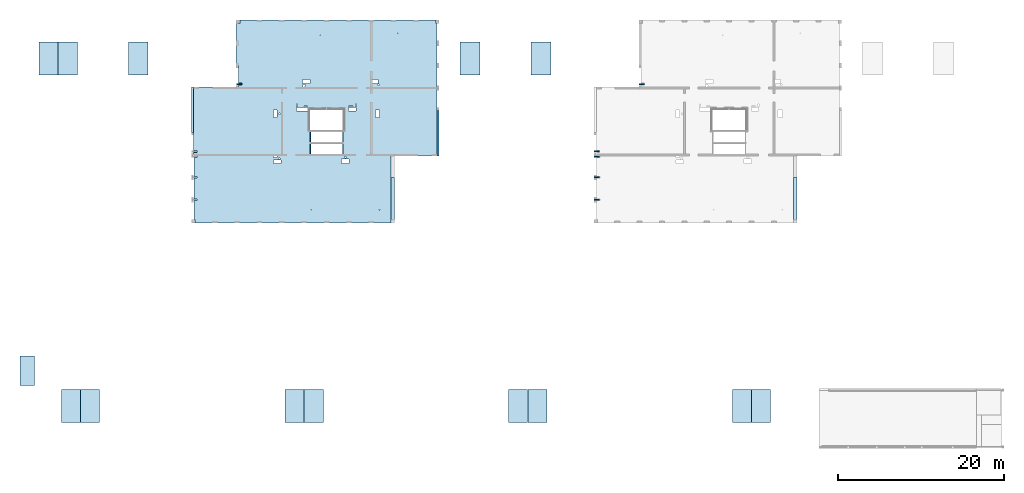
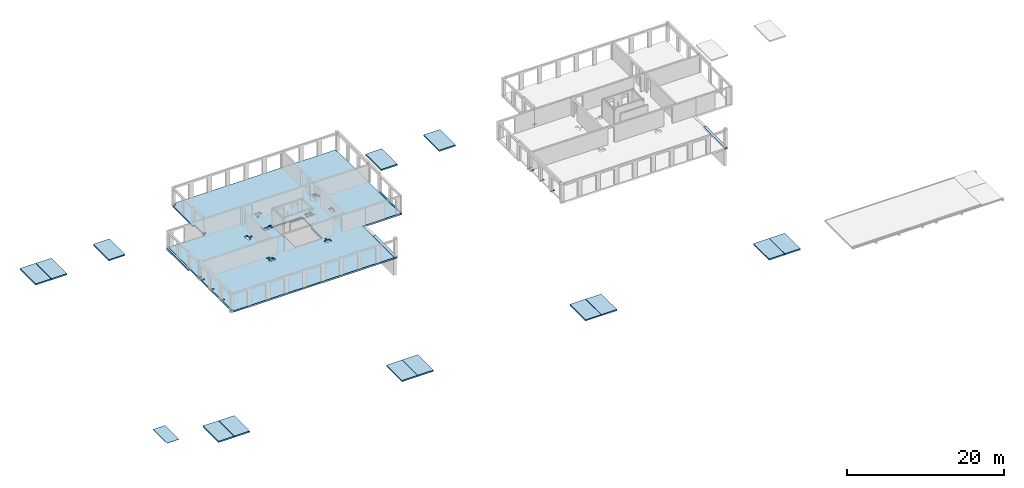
# One storey, part 4 of 14: 19 slabs, 6 beams, 34 openings.
"""IFC2X3 building model written with IfcOpenShell, lengths in millimetres."""

from ifc_helpers import new_model, entity, si_unit, converted_unit, derived_unit, direction, frame, frame_2d, origin, origin_2d_with_axis, place, context, subcontext, project, spatial, polyline, rectangle, circle, outline, extrude, source, transform, mapped, material, layer, layer_set, layer_usage, type_object, type_shapes, element, save


model = new_model("IFC2X3")

# Units and contexts
model_context = context("Model", 3, precision=0.01, world=origin(), true_north=direction((6.12303176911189e-17, 1.0)))
body_context = subcontext(model_context, "Body", "Model", "MODEL_VIEW")
ifc_project = project(units=[si_unit("LENGTHUNIT", "METRE", prefix="MILLI"), si_unit("AREAUNIT", "SQUARE_METRE"), si_unit("VOLUMEUNIT", "CUBIC_METRE"), converted_unit("PLANEANGLEUNIT", "DEGREE", entity("IfcRatioMeasure", 0.0174532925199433), si_unit("PLANEANGLEUNIT", "RADIAN"), dimensions=[0, 0, 0, 0, 0, 0, 0]), si_unit("MASSUNIT", "GRAM", prefix="KILO"), derived_unit("MASSDENSITYUNIT", [(si_unit("MASSUNIT", "GRAM", prefix="KILO"), 1), (si_unit("LENGTHUNIT", "METRE"), -3)]), si_unit("TIMEUNIT", "SECOND"), si_unit("FREQUENCYUNIT", "HERTZ"), si_unit("THERMODYNAMICTEMPERATUREUNIT", "DEGREE_CELSIUS"), derived_unit("THERMALTRANSMITTANCEUNIT", [(si_unit("MASSUNIT", "GRAM", prefix="KILO"), 1), (si_unit("THERMODYNAMICTEMPERATUREUNIT", "KELVIN"), -1), (si_unit("TIMEUNIT", "SECOND"), -3)]), derived_unit("VOLUMETRICFLOWRATEUNIT", [(si_unit("LENGTHUNIT", "METRE"), 3), (si_unit("TIMEUNIT", "SECOND"), -1)]), si_unit("ELECTRICCURRENTUNIT", "AMPERE"), si_unit("ELECTRICVOLTAGEUNIT", "VOLT"), si_unit("POWERUNIT", "WATT"), si_unit("FORCEUNIT", "NEWTON", prefix="KILO"), si_unit("ILLUMINANCEUNIT", "LUX"), si_unit("LUMINOUSFLUXUNIT", "LUMEN"), si_unit("LUMINOUSINTENSITYUNIT", "CANDELA"), derived_unit("USERDEFINED", [(si_unit("MASSUNIT", "GRAM", prefix="KILO"), -1), (si_unit("LENGTHUNIT", "METRE"), -2), (si_unit("TIMEUNIT", "SECOND"), 3), (si_unit("LUMINOUSFLUXUNIT", "LUMEN"), 1)]), derived_unit("LINEARVELOCITYUNIT", [(si_unit("LENGTHUNIT", "METRE"), 1), (si_unit("TIMEUNIT", "SECOND"), -1)]), si_unit("PRESSUREUNIT", "PASCAL"), derived_unit("USERDEFINED", [(si_unit("LENGTHUNIT", "METRE"), -2), (si_unit("MASSUNIT", "GRAM", prefix="KILO"), 1), (si_unit("TIMEUNIT", "SECOND"), -2)])], contexts=[model_context])

# Site, building, storey
site_placement = place(None, origin())
site = spatial("IfcSite", under=ifc_project, at=site_placement, Name="Default", CompositionType="ELEMENT")
building_placement = place(site_placement, origin())
building = spatial("IfcBuilding", under=site, at=building_placement, Name="niet gebruiken", CompositionType="ELEMENT")
storey_placement = place(building_placement, frame((0.0, 0.0, 15570.0)))
storey = spatial("IfcBuildingStorey", under=building, at=storey_placement, Name="05 vijfde verdieping", CompositionType="ELEMENT", Elevation=15570.0)

# Beams
ifc_material_1 = material(Name="NLRS_h2_staal")
beam_type_1 = type_object("IfcBeamType", Name="ligger stripstaal RECT_120x10", PredefinedType="BEAM", material=ifc_material_1)
shared_shape_1 = source(origin(), body_context, "Body", "SweptSolid", [
    extrude(rectangle(XDim=599.999999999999, YDim=120.0, at=origin_2d_with_axis()), frame((0.0, 0.0, -5.0), z_axis=(0.0, 0.0, 1.0), x_axis=(-1.0, 0.0, 0.0)), (0.0, 0.0, 1.0), 9.99999999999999),
    extrude(rectangle(XDim=599.999999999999, YDim=120.0, at=origin_2d_with_axis()), frame((0.0, 0.0, -5.0), z_axis=(0.0, 0.0, 1.0), x_axis=(-1.0, 0.0, 0.0)), (0.0, 0.0, 1.0), 9.99999999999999),
])
type_shapes(beam_type_1, [shared_shape_1])
for number, where, name in (
    (1, (75835.0, 31556.0, -115.0), "NLRS_28.11_SF_WPB_stalen ligger stripstaal_gen:ligger stripstaal RECT_120x10"),
    (2, (75835.0, 34256.0, -115.0), "NLRS_28.11_SF_WPB_stalen ligger stripstaal_gen:ligger stripstaal RECT_120x10"),
    (3, (75835.0, 36766.0, -115.0), "NLRS_28.11_SF_WPB_stalen ligger stripstaal_gen:ligger stripstaal RECT_120x10"),
):
    element("IfcBeam", number, at=place(storey_placement, frame(where)), inside=storey, type_object=beam_type_1, material=ifc_material_1, Name=name, ObjectType="ligger stripstaal RECT_120x10", context=body_context, shape_type="MappedRepresentation", body=[
        mapped(shared_shape_1, transform((0.0, 0.0, 0.0), scale=1.0)),
    ])
beam_type_2 = type_object("IfcBeamType", Name="ligger stripstaal RECT_120x10", PredefinedType="BEAM", material=ifc_material_1)
shared_shape_2 = source(origin(), body_context, "Body", "SweptSolid", [
    extrude(rectangle(XDim=120.0, YDim=600.000000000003, at=origin_2d_with_axis()), frame((0.0, 0.0, -5.0), z_axis=(0.0, 0.0, 1.0), x_axis=(0.0, 1.0, 0.0)), (0.0, 0.0, 1.0), 9.99999999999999),
    extrude(rectangle(XDim=120.0, YDim=600.000000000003, at=origin_2d_with_axis()), frame((0.0, 0.0, -5.0), z_axis=(0.0, 0.0, 1.0), x_axis=(0.0, 1.0, 0.0)), (0.0, 0.0, 1.0), 9.99999999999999),
])
type_shapes(beam_type_2, [shared_shape_2])
for number, where, name in (
    (4, (75835.0, 37386.0, -115.0), "NLRS_28.11_SF_WPB_stalen ligger stripstaal_gen:ligger stripstaal RECT_120x10"),
    (5, (32635.0, 45521.0, -115.0), "NLRS_28.11_SF_WPB_stalen ligger stripstaal_gen:ligger stripstaal RECT_120x10"),
    (6, (81235.0, 45521.0, -115.0), "NLRS_28.11_SF_WPB_stalen ligger stripstaal_gen:ligger stripstaal RECT_120x10"),
):
    element("IfcBeam", number, at=place(storey_placement, frame(where)), inside=storey, type_object=beam_type_2, material=ifc_material_1, Name=name, ObjectType="ligger stripstaal RECT_120x10", context=body_context, shape_type="MappedRepresentation", body=[
        mapped(shared_shape_2, transform((0.0, 0.0, 0.0), scale=1.0)),
    ])

# Slabs
ifc_material_2 = material(Name="NLRS_f2_beton prefab")
ifc_layer_1 = layer(ifc_material_2, 200.0)
ifc_layer_set_1 = layer_set([ifc_layer_1], Name="Floor:NLRS_27.21_FL_beton prefab d=200_gen")
ifc_layer_usage_1 = layer_usage(ifc_layer_set_1, "AXIS3", "POSITIVE", 0.0)
slab_1_placement = place(storey_placement, frame((11190.0, 4666.0, -340.0)))
element("IfcSlab", 7, at=slab_1_placement, inside=storey, material=ifc_layer_usage_1, Name="Floor:NLRS_27.21_FL_beton prefab d=200_gen", ObjectType="Floor:NLRS_27.21_FL_beton prefab d=200_gen", PredefinedType="ROOF", context=body_context, shape_type="SweptSolid", body=[
    extrude(rectangle(XDim=3979.99999999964, YDim=2300.00000000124, at=frame_2d((1160.0, 0.0), x_axis=(0.0, -1.0))), frame((2310.0, 1990.0, 200.0), z_axis=(0.0, 0.0, -1.0), x_axis=(-1.0, 0.0, 0.0)), (0.0, 0.0, 1.0), 200.0),
])
slab_2_placement = place(storey_placement, frame((11190.0, 4666.0, -340.0)))
element("IfcSlab", 8, at=slab_2_placement, inside=storey, material=ifc_layer_usage_1, Name="Floor:NLRS_27.21_FL_beton prefab d=200_gen:2", ObjectType="Floor:NLRS_27.21_FL_beton prefab d=200_gen", PredefinedType="ROOF", context=body_context, shape_type="SweptSolid", body=[
    extrude(rectangle(XDim=3979.99999999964, YDim=2299.99999999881, at=frame_2d((-1160.0, 0.0), x_axis=(0.0, 1.0))), frame((2310.0, 1990.0, 200.0), z_axis=(0.0, 0.0, -1.0), x_axis=(-1.0, 0.0, 0.0)), (0.0, 0.0, 1.0), 200.0),
])
ifc_layer_usage_2 = layer_usage(ifc_layer_set_1, "AXIS3", "POSITIVE", 0.0)
slab_3_placement = place(storey_placement, origin())
element("IfcSlab", 9, at=slab_3_placement, inside=storey, material=ifc_layer_usage_2, Name="Floor:NLRS_27.21_FL_beton prefab d=200_gen", ObjectType="Floor:NLRS_27.21_FL_beton prefab d=200_gen", PredefinedType="ROOF", context=body_context, shape_type="SweptSolid", body=[
    extrude(rectangle(XDim=3979.99999999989, YDim=2404.99999999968, at=origin_2d_with_axis()), frame((20472.4999999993, 48586.0, -140.0), z_axis=(0.0, 0.0, -1.0), x_axis=(0.0, 1.0, 0.0)), (0.0, 0.0, 1.0), 200.0),
])

# Slab, openings
ifc_material_3 = material(Name="NLRS_f2_beton ihwg")
ifc_layer_2 = layer(ifc_material_3, 250.0)
ifc_layer_set_2 = layer_set([ifc_layer_2], Name="Floor:NLRS_23.21_FL_beton ihwg d=250_gen")
ifc_layer_usage_3 = layer_usage(ifc_layer_set_2, "AXIS3", "POSITIVE", 0.0)
slab_4_placement = place(storey_placement, frame((27170.0, 28756.0, -340.0)))
slab_4 = element("IfcSlab", 10, at=slab_4_placement, inside=storey, material=ifc_layer_usage_3, Name="Floor:NLRS_23.21_FL_beton ihwg d=250_gen", ObjectType="Floor:NLRS_23.21_FL_beton ihwg d=250_gen", PredefinedType="FLOOR", context=body_context, shape_type="SweptSolid", body=[
    extrude(outline(polyline([(9129.9999670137, 12250.0), (-14530.0, 12250.0), (-14530.0, 11840.0), (-14670.0, 11840.0), (-14670.0, 4060.0), (-14690.0, 4060.0), (-14690.0, -4150.0), (-9130.0, -4150.0), (-9130.0, -12250.0), (14530.0, -12250.0), (14530.0, -11820.0), (14670.0, -11820.0), (14670.0, -4040.0), (14690.0, -4040.0), (14690.0, 4150.0), (9290.0, 4150.0), (9290.0, 6750.0), (9560.0, 6750.0), (9560.0, 11820.0), (9129.9999670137, 11820.0), (9129.9999670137, 12250.0)])), frame((14690.0, 12250.0, 250.0), z_axis=(0.0, 0.0, -1.0), x_axis=(-1.0, 0.0, 0.0)), (0.0, 0.0, 1.0), 249.999999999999),
])
opening_1_placement = place(storey_placement, frame((27170.0, 28756.0, -340.0)))
element("IfcOpeningElement", 11, at=opening_1_placement, cuts=slab_4, ObjectType="Opening", context=body_context, shape_type="SweptSolid", body=[
    extrude(circle(Radius=37.5, at=frame_2d((-7740.0, -10650.0), x_axis=(1.0, 0.0))), frame((14690.0, 12250.0, 250.0), z_axis=(0.0, 0.0, -1.0), x_axis=(-1.0, 0.0, 0.0)), (0.0, 0.0, 1.0), 249.999999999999),
])
opening_2_placement = place(storey_placement, frame((27170.0, 28756.0, -340.0)))
element("IfcOpeningElement", 12, at=opening_2_placement, cuts=slab_4, ObjectType="Opening", context=body_context, shape_type="SweptSolid", body=[
    extrude(circle(Radius=37.5, at=frame_2d((-9940.0, 10650.0), x_axis=(1.0, 0.0))), frame((14690.0, 12250.0, 250.0), z_axis=(0.0, 0.0, -1.0), x_axis=(-1.0, 0.0, 0.0)), (0.0, 0.0, 1.0), 249.999999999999),
])
opening_3_placement = place(storey_placement, frame((27170.0, 28756.0, -340.0)))
element("IfcOpeningElement", 13, at=opening_3_placement, cuts=slab_4, ObjectType="Opening", context=body_context, shape_type="SweptSolid", body=[
    extrude(circle(Radius=37.5, at=frame_2d((-590.0, 10400.0), x_axis=(1.0, 0.0))), frame((14690.0, 12250.0, 250.0), z_axis=(0.0, 0.0, -1.0), x_axis=(-1.0, 0.0, 0.0)), (0.0, 0.0, 1.0), 249.999999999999),
])
opening_4_placement = place(storey_placement, frame((27170.0, 28756.0, -340.0)))
element("IfcOpeningElement", 14, at=opening_4_placement, cuts=slab_4, ObjectType="Opening", context=body_context, shape_type="SweptSolid", body=[
    extrude(circle(Radius=37.5, at=frame_2d((510.0, -10650.0), x_axis=(1.0, 0.0))), frame((14690.0, 12250.0, 250.0), z_axis=(0.0, 0.0, -1.0), x_axis=(-1.0, 0.0, 0.0)), (0.0, 0.0, 1.0), 249.999999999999),
])
opening_5_placement = place(slab_4_placement, origin())
element("IfcOpeningElement", 15, at=opening_5_placement, cuts=slab_4, ObjectType="Opening", context=body_context, shape_type="SweptSolid", body=[
    extrude(rectangle(XDim=110.000000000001, YDim=1220.0, at=origin_2d_with_axis()), frame((17985.0, 8960.0, 210.0)), (0.0, 0.0, 1.0), 39.9999999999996),
])
opening_6_placement = place(slab_4_placement, origin())
element("IfcOpeningElement", 16, at=opening_6_placement, cuts=slab_4, ObjectType="Opening", context=body_context, shape_type="SweptSolid", body=[
    extrude(rectangle(XDim=110.000000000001, YDim=1220.0, at=origin_2d_with_axis()), frame((14074.9995993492, 8960.0, 210.0)), (0.0, 0.0, 1.0), 39.9999999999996),
])
opening_7_placement = place(slab_4_placement, origin())
element("IfcOpeningElement", 17, at=opening_7_placement, cuts=slab_4, ObjectType="Opening", context=body_context, shape_type="SweptSolid", body=[
    extrude(rectangle(XDim=200.000000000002, YDim=400.000000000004, at=origin_2d_with_axis()), frame((220.0, 5500.0, 220.0), z_axis=(0.0, 0.0, 1.0), x_axis=(0.0, -1.0, 0.0)), (0.0, 0.0, 1.0), 29.9999999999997),
])
opening_8_placement = place(slab_4_placement, origin())
element("IfcOpeningElement", 18, at=opening_8_placement, cuts=slab_4, ObjectType="Opening", context=body_context, shape_type="SweptSolid", body=[
    extrude(rectangle(XDim=200.000000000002, YDim=400.000000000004, at=origin_2d_with_axis()), frame((220.0, 8000.0, 220.0), z_axis=(0.0, 0.0, 1.0), x_axis=(0.0, -1.0, 0.0)), (0.0, 0.0, 1.0), 29.9999999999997),
])
opening_9_placement = place(slab_4_placement, origin())
element("IfcOpeningElement", 19, at=opening_9_placement, cuts=slab_4, ObjectType="Opening", context=body_context, shape_type="SweptSolid", body=[
    extrude(rectangle(XDim=200.000000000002, YDim=400.000000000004, at=origin_2d_with_axis()), frame((220.0, 2800.0, 220.0), z_axis=(0.0, 0.0, 1.0), x_axis=(0.0, -1.0, 0.0)), (0.0, 0.0, 1.0), 29.9999999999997),
])
opening_10_placement = place(slab_4_placement, origin())
element("IfcOpeningElement", 20, at=opening_10_placement, cuts=slab_4, ObjectType="Opening", context=body_context, shape_type="SweptSolid", body=[
    extrude(rectangle(XDim=400.000000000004, YDim=200.000000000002, at=origin_2d_with_axis()), frame((200.0, 8630.0, 220.0)), (0.0, 0.0, 1.0), 29.9999999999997),
])
opening_11_placement = place(slab_4_placement, origin())
element("IfcOpeningElement", 21, at=opening_11_placement, cuts=slab_4, ObjectType="Opening", context=body_context, shape_type="SweptSolid", body=[
    extrude(rectangle(XDim=400.000000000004, YDim=199.999999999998, at=origin_2d_with_axis()), frame((5600.0, 16765.0, 220.0)), (0.0, 0.0, 1.0), 29.9999999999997),
])
opening_12_placement = place(slab_4_placement, origin())
element("IfcOpeningElement", 22, at=opening_12_placement, cuts=slab_4, ObjectType="Opening", context=body_context, shape_type="SweptSolid", body=[
    extrude(rectangle(XDim=110.000000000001, YDim=1220.0, at=origin_2d_with_axis()), frame((14074.9999671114, 10380.0, 210.0)), (0.0, 0.0, 1.0), 39.9999999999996),
])
opening_13_placement = place(slab_4_placement, origin())
element("IfcOpeningElement", 23, at=opening_13_placement, cuts=slab_4, ObjectType="Opening", context=body_context, shape_type="SweptSolid", body=[
    extrude(rectangle(XDim=110.000000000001, YDim=1220.0, at=origin_2d_with_axis()), frame((17985.0, 10380.0, 210.0)), (0.0, 0.0, 1.0), 39.9999999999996),
])
opening_14_placement = place(slab_4_placement, origin())
element("IfcOpeningElement", 24, at=opening_14_placement, cuts=slab_4, ObjectType="Opening", context=body_context, shape_type="SweptSolid", body=[
    extrude(rectangle(XDim=450.000000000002, YDim=900.000000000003, at=origin_2d_with_axis()), frame((19160.0, 13720.0, 0.0), z_axis=(0.0, 0.0, 1.0), x_axis=(0.0, -1.0, 0.0)), (0.0, 0.0, 1.0), 249.999999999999),
])
opening_15_placement = place(slab_4_placement, origin())
element("IfcOpeningElement", 25, at=opening_15_placement, cuts=slab_4, ObjectType="Opening", context=body_context, shape_type="SweptSolid", body=[
    extrude(circle(Radius=157.5, at=origin_2d_with_axis()), frame((13310.0, 16570.0, 0.0)), (0.0, 0.0, 1.0), 249.999999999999),
])
opening_16_placement = place(slab_4_placement, origin())
element("IfcOpeningElement", 26, at=opening_16_placement, cuts=slab_4, ObjectType="Opening", context=body_context, shape_type="SweptSolid", body=[
    extrude(rectangle(XDim=475.000000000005, YDim=910.000000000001, at=origin_2d_with_axis()), frame((13610.0, 17072.5000000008, 0.0), z_axis=(0.0, 0.0, 1.0), x_axis=(0.0, 1.0, 0.0)), (0.0, 0.0, 1.0), 249.999999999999),
])
opening_17_placement = place(slab_4_placement, origin())
element("IfcOpeningElement", 27, at=opening_17_placement, cuts=slab_4, ObjectType="Opening", context=body_context, shape_type="SweptSolid", body=[
    extrude(rectangle(XDim=499.999999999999, YDim=675.000000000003, at=origin_2d_with_axis()), frame((21892.5, 17075.0, 0.0), z_axis=(0.0, 0.0, 1.0), x_axis=(0.0, -1.0, 0.0)), (0.0, 0.0, 1.0), 249.999999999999),
])
opening_18_placement = place(slab_4_placement, origin())
element("IfcOpeningElement", 28, at=opening_18_placement, cuts=slab_4, ObjectType="Opening", context=body_context, shape_type="SweptSolid", body=[
    extrude(rectangle(XDim=499.999999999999, YDim=900.000000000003, at=origin_2d_with_axis()), frame((22205.0, 13180.0, 0.0), z_axis=(0.0, 0.0, 1.0), x_axis=(-1.0, 0.0, 0.0)), (0.0, 0.0, 1.0), 249.999999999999),
])
opening_19_placement = place(slab_4_placement, origin())
element("IfcOpeningElement", 29, at=opening_19_placement, cuts=slab_4, ObjectType="Opening", context=body_context, shape_type="SweptSolid", body=[
    extrude(rectangle(XDim=500.000000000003, YDim=900.000000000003, at=origin_2d_with_axis()), frame((18310.0, 7450.0, 0.0), z_axis=(0.0, 0.0, 1.0), x_axis=(0.0, 1.0, 0.0)), (0.0, 0.0, 1.0), 249.999999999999),
])
opening_20_placement = place(slab_4_placement, origin())
element("IfcOpeningElement", 30, at=opening_20_placement, cuts=slab_4, ObjectType="Opening", context=body_context, shape_type="SweptSolid", body=[
    extrude(rectangle(XDim=220.000000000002, YDim=450.000000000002, at=origin_2d_with_axis()), frame((9830.0, 7990.0, 0.0), z_axis=(0.0, 0.0, 1.0), x_axis=(0.0, 1.0, 0.0)), (0.0, 0.0, 1.0), 249.999999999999),
])
opening_21_placement = place(slab_4_placement, origin())
element("IfcOpeningElement", 31, at=opening_21_placement, cuts=slab_4, ObjectType="Opening", context=body_context, shape_type="SweptSolid", body=[
    extrude(rectangle(XDim=400.0, YDim=900.000000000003, at=origin_2d_with_axis()), frame((10055.0, 7400.0, 0.0), z_axis=(0.0, 0.0, 1.0), x_axis=(0.0, 1.0, 0.0)), (0.0, 0.0, 1.0), 249.999999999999),
])
opening_22_placement = place(slab_4_placement, origin())
element("IfcOpeningElement", 32, at=opening_22_placement, cuts=slab_4, ObjectType="Opening", context=body_context, shape_type="SweptSolid", body=[
    extrude(rectangle(XDim=340.000000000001, YDim=100.000000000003, at=origin_2d_with_axis()), frame((12485.0, 14210.0, 0.0), z_axis=(0.0, 0.0, 1.0), x_axis=(0.0, -1.0, 0.0)), (0.0, 0.0, 1.0), 249.999999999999),
])
opening_23_placement = place(slab_4_placement, origin())
element("IfcOpeningElement", 33, at=opening_23_placement, cuts=slab_4, ObjectType="Opening", context=body_context, shape_type="SweptSolid", body=[
    extrude(rectangle(XDim=1760.00000000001, YDim=23.0000000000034, at=origin_2d_with_axis()), frame((14974.9998491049, 13751.5, 180.0)), (0.0, 0.0, 1.0), 39.9999999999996),
])
opening_24_placement = place(slab_4_placement, origin())
element("IfcOpeningElement", 34, at=opening_24_placement, cuts=slab_4, ObjectType="Opening", context=body_context, shape_type="SweptSolid", body=[
    extrude(rectangle(XDim=1760.00000000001, YDim=23.0000000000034, at=origin_2d_with_axis()), frame((17084.999849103, 13751.5, 180.0)), (0.0, 0.0, 1.0), 39.9999999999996),
])
opening_25_placement = place(slab_4_placement, origin())
element("IfcOpeningElement", 35, at=opening_25_placement, cuts=slab_4, ObjectType="Opening", context=body_context, shape_type="SweptSolid", body=[
    extrude(rectangle(XDim=340.000000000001, YDim=100.000000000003, at=origin_2d_with_axis()), frame((19595.0, 14210.0, 0.0), z_axis=(0.0, 0.0, 1.0), x_axis=(0.0, -1.0, 0.0)), (0.0, 0.0, 1.0), 249.999999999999),
])
opening_26_placement = place(slab_4_placement, origin())
element("IfcOpeningElement", 36, at=opening_26_placement, cuts=slab_4, ObjectType="Opening", context=body_context, shape_type="SweptSolid", body=[
    extrude(rectangle(XDim=490.000000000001, YDim=100.000000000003, at=origin_2d_with_axis()), frame((18955.0, 14090.0, 0.0), z_axis=(0.0, 0.0, 1.0), x_axis=(-1.0, 0.0, 0.0)), (0.0, 0.0, 1.0), 249.999999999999),
])
opening_27_placement = place(slab_4_placement, origin())
element("IfcOpeningElement", 37, at=opening_27_placement, cuts=slab_4, ObjectType="Opening", context=body_context, shape_type="SweptSolid", body=[
    extrude(rectangle(XDim=440.000000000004, YDim=100.000000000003, at=origin_2d_with_axis()), frame((13535.0, 14090.0, 0.0), z_axis=(0.0, 0.0, 1.0), x_axis=(-1.0, 0.0, 0.0)), (0.0, 0.0, 1.0), 249.999999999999),
])
opening_28_placement = place(slab_4_placement, origin())
element("IfcOpeningElement", 38, at=opening_28_placement, cuts=slab_4, ObjectType="Opening", context=body_context, shape_type="SweptSolid", body=[
    extrude(circle(Radius=100.0, at=origin_2d_with_axis()), frame((10305.0, 7760.0, 0.0)), (0.0, 0.0, 1.0), 249.999999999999),
])
opening_29_placement = place(slab_4_placement, origin())
element("IfcOpeningElement", 39, at=opening_29_placement, cuts=slab_4, ObjectType="Opening", context=body_context, shape_type="SweptSolid", body=[
    extrude(circle(Radius=100.0, at=origin_2d_with_axis()), frame((18310.0, 7950.0, 0.0)), (0.0, 0.0, 1.0), 249.999999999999),
])
opening_30_placement = place(slab_4_placement, origin())
element("IfcOpeningElement", 40, at=opening_30_placement, cuts=slab_4, ObjectType="Opening", context=body_context, shape_type="SweptSolid", body=[
    extrude(circle(Radius=100.0, at=origin_2d_with_axis()), frame((22305.0, 16700.0, 0.0)), (0.0, 0.0, 1.0), 249.999999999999),
])
opening_31_placement = place(slab_4_placement, origin())
element("IfcOpeningElement", 41, at=opening_31_placement, cuts=slab_4, ObjectType="Opening", context=body_context, shape_type="SweptSolid", body=[
    extrude(circle(Radius=100.0, at=origin_2d_with_axis()), frame((10355.0, 13180.0, 0.0)), (0.0, 0.0, 1.0), 249.999999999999),
])
opening_32_placement = place(slab_4_placement, origin())
element("IfcOpeningElement", 42, at=opening_32_placement, cuts=slab_4, ObjectType="Opening", context=body_context, shape_type="SweptSolid", body=[
    extrude(rectangle(XDim=450.000000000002, YDim=900.000000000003, at=origin_2d_with_axis()), frame((9829.99998015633, 13180.0, 0.0), z_axis=(0.0, 0.0, 1.0), x_axis=(-1.0, 0.0, 0.0)), (0.0, 0.0, 1.0), 249.999999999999),
])
opening_33_placement = place(slab_4_placement, origin())
element("IfcOpeningElement", 43, at=opening_33_placement, cuts=slab_4, ObjectType="Opening", context=body_context, shape_type="SweptSolid", body=[
    extrude(rectangle(XDim=440.000000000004, YDim=1320.0, at=origin_2d_with_axis()), frame((13095.0, 13720.0, 0.0), z_axis=(0.0, 0.0, 1.0), x_axis=(0.0, -1.0, 0.0)), (0.0, 0.0, 1.0), 249.999999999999),
])
opening_34_placement = place(slab_4_placement, frame((16030.0028664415, 10378.75, 250.0)))
element("IfcOpeningElement", 44, at=opening_34_placement, cuts=slab_4, Name="Floor:NLRS_23.21_FL_beton ihwg d=250_gen:2", ObjectType="Opening", context=body_context, shape_type="SweptSolid", body=[
    extrude(outline(polyline([(-3361.25000000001, -2134.99713355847), (-751.250000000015, -2134.99713355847), (-751.250000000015, -1899.9971006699), (608.750000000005, -1899.9971006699), (608.750000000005, -1999.99713355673), (808.750000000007, -1999.99713355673), (808.750000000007, -1899.9971006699), (2028.75, -1899.9971006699), (2028.75, 1900.00289933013), (808.749999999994, 1900.00289933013), (808.749999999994, 2000.00286644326), (608.749999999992, 2000.00286644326), (608.749999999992, 1900.00289933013), (-751.250000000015, 1900.00289933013), (-751.250000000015, 2134.97980335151), (-3361.25000000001, 2134.97980335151), (-3361.25000000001, -2134.99713355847)])), frame((0.0, 0.0, 0.0), z_axis=(0.0, 0.0, -1.0), x_axis=(0.0, -1.0, 0.0)), (0.0, 0.0, 1.0), 249.999999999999),
])

# Slabs
ifc_layer_usage_4 = layer_usage(ifc_layer_set_1, "AXIS3", "POSITIVE", 0.0)
slab_5_placement = place(storey_placement, frame((38190.0, 4666.0, -340.0)))
element("IfcSlab", 45, at=slab_5_placement, inside=storey, material=ifc_layer_usage_4, Name="Floor:NLRS_27.21_FL_beton prefab d=200_gen", ObjectType="Floor:NLRS_27.21_FL_beton prefab d=200_gen", PredefinedType="ROOF", context=body_context, shape_type="SweptSolid", body=[
    extrude(rectangle(XDim=3979.99999999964, YDim=2300.00000000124, at=frame_2d((1160.0, 0.0), x_axis=(0.0, -1.0))), frame((2310.0, 1990.0, 200.0), z_axis=(0.0, 0.0, -1.0), x_axis=(-1.0, 0.0, 0.0)), (0.0, 0.0, 1.0), 200.0),
])
slab_6_placement = place(storey_placement, frame((38190.0, 4666.0, -340.0)))
element("IfcSlab", 46, at=slab_6_placement, inside=storey, material=ifc_layer_usage_4, Name="Floor:NLRS_27.21_FL_beton prefab d=200_gen:2", ObjectType="Floor:NLRS_27.21_FL_beton prefab d=200_gen", PredefinedType="ROOF", context=body_context, shape_type="SweptSolid", body=[
    extrude(rectangle(XDim=3979.99999999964, YDim=2299.99999999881, at=frame_2d((-1160.0, 0.0), x_axis=(0.0, 1.0))), frame((2310.0, 1990.0, 200.0), z_axis=(0.0, 0.0, -1.0), x_axis=(-1.0, 0.0, 0.0)), (0.0, 0.0, 1.0), 200.0),
])
ifc_layer_usage_5 = layer_usage(ifc_layer_set_1, "AXIS3", "POSITIVE", 0.0)
slab_7_placement = place(storey_placement, frame((65190.0, 4666.0, -340.0)))
element("IfcSlab", 47, at=slab_7_placement, inside=storey, material=ifc_layer_usage_5, Name="Floor:NLRS_27.21_FL_beton prefab d=200_gen", ObjectType="Floor:NLRS_27.21_FL_beton prefab d=200_gen", PredefinedType="ROOF", context=body_context, shape_type="SweptSolid", body=[
    extrude(rectangle(XDim=3979.99999999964, YDim=2300.00000000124, at=frame_2d((1160.0, 0.0), x_axis=(0.0, -1.0))), frame((2310.0, 1990.0, 200.0), z_axis=(0.0, 0.0, -1.0), x_axis=(-1.0, 0.0, 0.0)), (0.0, 0.0, 1.0), 200.0),
])
slab_8_placement = place(storey_placement, frame((65190.0, 4666.0, -340.0)))
element("IfcSlab", 48, at=slab_8_placement, inside=storey, material=ifc_layer_usage_5, Name="Floor:NLRS_27.21_FL_beton prefab d=200_gen:2", ObjectType="Floor:NLRS_27.21_FL_beton prefab d=200_gen", PredefinedType="ROOF", context=body_context, shape_type="SweptSolid", body=[
    extrude(rectangle(XDim=3979.99999999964, YDim=2299.99999999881, at=frame_2d((-1160.0, 0.0), x_axis=(0.0, 1.0))), frame((2310.0, 1990.0, 200.0), z_axis=(0.0, 0.0, -1.0), x_axis=(-1.0, 0.0, 0.0)), (0.0, 0.0, 1.0), 200.0),
])
ifc_layer_usage_6 = layer_usage(ifc_layer_set_1, "AXIS3", "POSITIVE", 0.0)
slab_9_placement = place(storey_placement, frame((92190.0, 4666.0, -340.0)))
element("IfcSlab", 49, at=slab_9_placement, inside=storey, material=ifc_layer_usage_6, Name="Floor:NLRS_27.21_FL_beton prefab d=200_gen", ObjectType="Floor:NLRS_27.21_FL_beton prefab d=200_gen", PredefinedType="ROOF", context=body_context, shape_type="SweptSolid", body=[
    extrude(rectangle(XDim=3979.99999999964, YDim=2300.00000000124, at=frame_2d((1160.0, 0.0), x_axis=(0.0, -1.0))), frame((2310.0, 1990.0, 200.0), z_axis=(0.0, 0.0, -1.0), x_axis=(-1.0, 0.0, 0.0)), (0.0, 0.0, 1.0), 200.0),
])
slab_10_placement = place(storey_placement, frame((92190.0, 4666.0, -340.0)))
element("IfcSlab", 50, at=slab_10_placement, inside=storey, material=ifc_layer_usage_6, Name="Floor:NLRS_27.21_FL_beton prefab d=200_gen:2", ObjectType="Floor:NLRS_27.21_FL_beton prefab d=200_gen", PredefinedType="ROOF", context=body_context, shape_type="SweptSolid", body=[
    extrude(rectangle(XDim=3979.99999999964, YDim=2299.9999999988, at=frame_2d((-1160.0, 0.0), x_axis=(0.0, 1.0))), frame((2310.0, 1990.0, 200.0), z_axis=(0.0, 0.0, -1.0), x_axis=(-1.0, 0.0, 0.0)), (0.0, 0.0, 1.0), 200.0),
])
ifc_layer_usage_7 = layer_usage(ifc_layer_set_1, "AXIS3", "POSITIVE", 0.0)
slab_11_placement = place(storey_placement, frame((8490.0, 46596.0, -340.0)))
element("IfcSlab", 51, at=slab_11_placement, inside=storey, material=ifc_layer_usage_7, Name="Floor:NLRS_27.21_FL_beton prefab d=200_gen", ObjectType="Floor:NLRS_27.21_FL_beton prefab d=200_gen", PredefinedType="ROOF", context=body_context, shape_type="SweptSolid", body=[
    extrude(outline(polyline([(10.4633878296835, 1990.0), (10.4267756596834, -1990.0), (2310.0, -1990.0), (2310.0, 1990.0), (10.4633878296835, 1990.0)])), frame((2310.0, 1990.0, 200.0), z_axis=(0.0, 0.0, -1.0), x_axis=(-1.0, 0.0, 0.0)), (0.0, 0.0, 1.0), 200.0),
])
slab_12_placement = place(storey_placement, frame((8490.0, 46596.0, -340.0)))
element("IfcSlab", 52, at=slab_12_placement, inside=storey, material=ifc_layer_usage_7, Name="Floor:NLRS_27.21_FL_beton prefab d=200_gen:2", ObjectType="Floor:NLRS_27.21_FL_beton prefab d=200_gen", PredefinedType="ROOF", context=body_context, shape_type="SweptSolid", body=[
    extrude(outline(polyline([(-9.60983651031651, -1990.0), (-9.57322434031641, 1990.0), (-2310.0, 1990.0), (-2310.0, -1990.0), (-9.60983651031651, -1990.0)])), frame((2310.0, 1990.0, 200.0), z_axis=(0.0, 0.0, -1.0), x_axis=(-1.0, 0.0, 0.0)), (0.0, 0.0, 1.0), 200.0),
])
ifc_layer_usage_8 = layer_usage(ifc_layer_set_1, "AXIS3", "POSITIVE", 0.0)
slab_13_placement = place(storey_placement, origin())
element("IfcSlab", 53, at=slab_13_placement, inside=storey, material=ifc_layer_usage_8, Name="Floor:NLRS_27.21_FL_beton prefab d=200_gen", ObjectType="Floor:NLRS_27.21_FL_beton prefab d=200_gen", PredefinedType="ROOF", context=body_context, shape_type="SweptSolid", body=[
    extrude(rectangle(XDim=3979.99999999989, YDim=2404.99999999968, at=origin_2d_with_axis()), frame((69072.4999999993, 48586.0, -140.0), z_axis=(0.0, 0.0, -1.0), x_axis=(0.0, 1.0, 0.0)), (0.0, 0.0, 1.0), 200.0),
])
ifc_layer_usage_9 = layer_usage(ifc_layer_set_1, "AXIS3", "POSITIVE", 0.0)
slab_14_placement = place(storey_placement, origin())
element("IfcSlab", 54, at=slab_14_placement, inside=storey, material=ifc_layer_usage_9, Name="Floor:NLRS_27.21_FL_beton prefab d=200_gen", ObjectType="Floor:NLRS_27.21_FL_beton prefab d=200_gen", PredefinedType="ROOF", context=body_context, shape_type="SweptSolid", body=[
    extrude(rectangle(XDim=3979.99999999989, YDim=2404.99999999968, at=origin_2d_with_axis()), frame((60527.4999999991, 48586.0, -140.0), z_axis=(0.0, 0.0, -1.0), x_axis=(0.0, 1.0, 0.0)), (0.0, 0.0, 1.0), 200.0),
])
ifc_layer_usage_10 = layer_usage(ifc_layer_set_2, "AXIS3", "POSITIVE", 0.0)
slab_15_placement = place(storey_placement, origin())
element("IfcSlab", 55, at=slab_15_placement, inside=storey, material=ifc_layer_usage_10, Name="Floor:NLRS_23.21_FL_beton ihwg d=250_gen", ObjectType="Floor:NLRS_23.21_FL_beton ihwg d=250_gen", PredefinedType="FLOOR", context=body_context, shape_type="SweptSolid", body=[
    extrude(rectangle(XDim=5500.00000000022, YDim=249.999999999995, at=origin_2d_with_axis()), frame((56675.0, 39606.0, -90.0), z_axis=(0.0, 0.0, -1.0), x_axis=(0.0, 1.0, 0.0)), (0.0, 0.0, 1.0), 249.999999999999),
])
ifc_layer_usage_11 = layer_usage(ifc_layer_set_2, "AXIS3", "POSITIVE", 0.0)
slab_16_placement = place(storey_placement, origin())
element("IfcSlab", 56, at=slab_16_placement, inside=storey, material=ifc_layer_usage_11, Name="Floor:NLRS_23.21_FL_beton ihwg d=250_gen", ObjectType="Floor:NLRS_23.21_FL_beton ihwg d=250_gen", PredefinedType="FLOOR", context=body_context, shape_type="SweptSolid", body=[
    extrude(rectangle(XDim=5500.0000000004, YDim=409.999999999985, at=frame_2d((-2.27373675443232e-12, -4.33431068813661e-12), x_axis=(1.0, 0.0))), frame((51195.0, 31506.0, -90.0), z_axis=(0.0, 0.0, -1.0), x_axis=(0.0, 1.0, 0.0)), (0.0, 0.0, 1.0), 249.999999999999),
])
ifc_layer_usage_12 = layer_usage(ifc_layer_set_2, "AXIS3", "POSITIVE", 0.0)
slab_17_placement = place(storey_placement, origin())
element("IfcSlab", 57, at=slab_17_placement, inside=storey, material=ifc_layer_usage_12, Name="Floor:NLRS_23.21_FL_beton ihwg d=250_gen", ObjectType="Floor:NLRS_23.21_FL_beton ihwg d=250_gen", PredefinedType="FLOOR", context=body_context, shape_type="SweptSolid", body=[
    extrude(rectangle(XDim=5500.0000000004, YDim=409.999999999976, at=frame_2d((-2.27373675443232e-12, 0.0), x_axis=(1.0, 0.0))), frame((99795.0, 31506.0, -90.0), z_axis=(0.0, 0.0, -1.0), x_axis=(0.0, 1.0, 0.0)), (0.0, 0.0, 1.0), 249.999999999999),
])
ifc_layer_usage_13 = layer_usage(ifc_layer_set_2, "AXIS3", "POSITIVE", 0.0)
slab_18_placement = place(storey_placement, origin())
element("IfcSlab", 58, at=slab_18_placement, inside=storey, material=ifc_layer_usage_13, Name="Floor:NLRS_23.21_FL_beton ihwg d=250_gen", ObjectType="Floor:NLRS_23.21_FL_beton ihwg d=250_gen", PredefinedType="FLOOR", context=body_context, shape_type="SweptSolid", body=[
    extrude(rectangle(XDim=5499.99999999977, YDim=270.000000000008, at=origin_2d_with_axis()), frame((27035.0, 42406.0, -90.0), z_axis=(0.0, 0.0, -1.0), x_axis=(0.0, 1.0, 0.0)), (0.0, 0.0, 1.0), 249.999999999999),
])
ifc_material_4 = material(Name="NLRS_h2_roostervloer staal")
ifc_layer_3 = layer(ifc_material_4, 30.0)
ifc_layer_set_3 = layer_set([ifc_layer_3], Name="Floor:NLRS_23.11_FL_stalen roostervloer d=30_gen")
ifc_layer_usage_14 = layer_usage(ifc_layer_set_3, "AXIS3", "POSITIVE", 0.0)
slab_19_placement = place(storey_placement, origin())
element("IfcSlab", 59, at=slab_19_placement, inside=storey, material=ifc_layer_usage_14, Name="Floor:NLRS_23.11_FL_stalen roostervloer d=30_gen", ObjectType="Floor:NLRS_23.11_FL_stalen roostervloer d=30_gen", PredefinedType="FLOOR", context=body_context, shape_type="SweptSolid", body=[
    extrude(rectangle(XDim=3560.00000000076, YDim=1759.99999999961, at=frame_2d((1.02318153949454e-12, 5.11590769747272e-13), x_axis=(1.0, 0.0))), frame((7075.0, 10936.0, -1405.0), z_axis=(0.0, 0.0, -1.0), x_axis=(0.0, 1.0, 0.0)), (0.0, 0.0, 1.0), 29.9999999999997),
])

save(model, "model.ifc")
